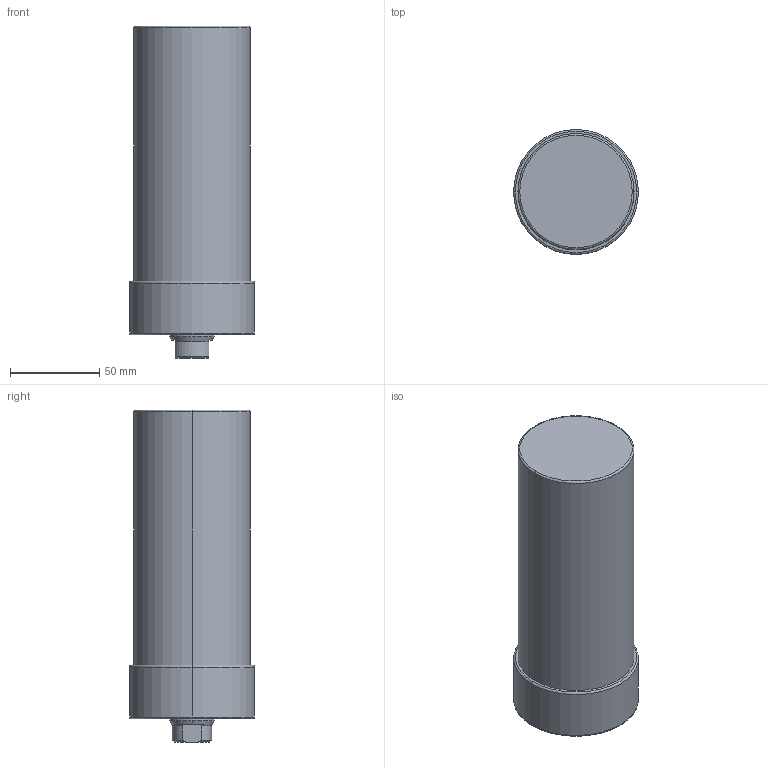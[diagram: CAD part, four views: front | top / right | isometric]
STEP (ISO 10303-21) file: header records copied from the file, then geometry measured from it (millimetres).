
FILE_DESCRIPTION (( 'STEP AP203' ), '1' );
FILE_NAME ('CLLU-065GA-110.STEP', '2020-01-07T00:11:18', ( '' ), ( '' ), 'SwSTEP 2.0', 'SolidWorks 2015', '' );
FILE_SCHEMA (( 'CONFIG_CONTROL_DESIGN' ));
Length unit declared in the file: millimetre
Products named in the file (1): CLLU-065GA-110
Bounding box: 70 x 70 x 186 mm (x, y, z)
Volume: 590405.8 mm3; surface area: 46225.7 mm2
Topology: 1 solids, 1 shells, 62 faces, 140 edges, 79 vertices
Faces by surface type: cone 24, cylinder 22, plane 10, torus 6
Entity records: 1751 total; most frequent: DIRECTION 320, CARTESIAN_POINT 300, ORIENTED_EDGE 260, AXIS2_PLACEMENT_3D 135, EDGE_CURVE 130, VERTEX_POINT 79, CIRCLE 72, EDGE_LOOP 71
